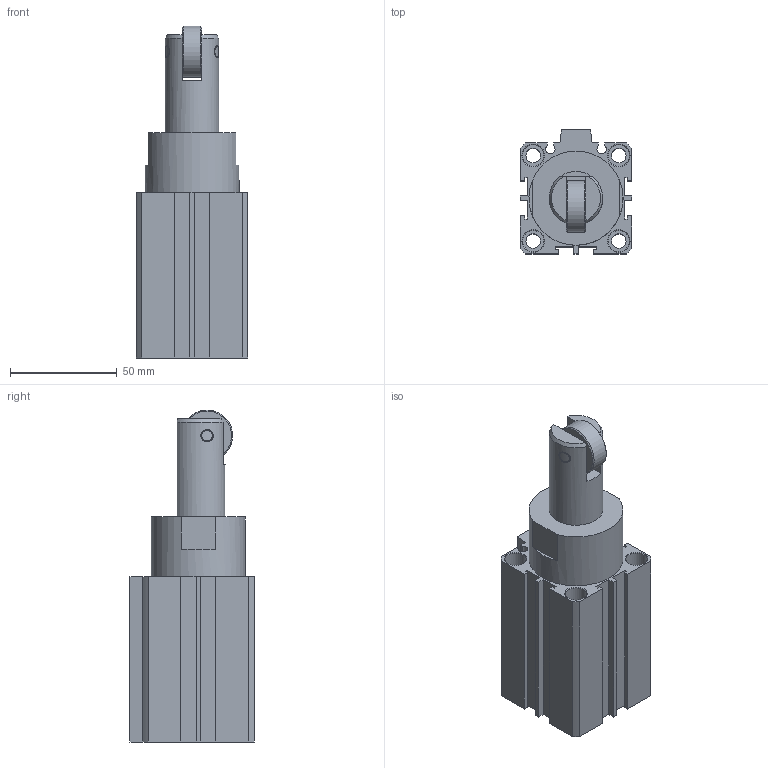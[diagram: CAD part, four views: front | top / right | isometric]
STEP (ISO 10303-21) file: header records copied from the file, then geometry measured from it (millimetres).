
FILE_DESCRIPTION((''),'2;1');
FILE_NAME('I:\3D電子目錄\氣缸\STC\STC\STC40\STC40x25.stp','2007-09-19T15:42:53',('Administrator'),(''),'Autodesk Inventor 11','Autodesk Inventor 11','');
FILE_SCHEMA(('AUTOMOTIVE_DESIGN { 1 0 10303 214 1 1 1 1 }'));
Length unit declared in the file: millimetre
Products named in the file (1): STC40
Bounding box: 52 x 58 x 155.2 mm (x, y, z)
Volume: 243395.1 mm3; surface area: 47061.3 mm2
Topology: 3 solids, 3 shells, 144 faces, 340 edges, 223 vertices
Faces by surface type: plane 84, cylinder 36, cone 18, bspline 5, torus 1
Full cylindrical faces by diameter (mm): 2.2 x2, 5 x2, 5.2 x2, 6.8 x4, 10 x8, 24 x1, 29 x1, 42 x2, 44 x2, 44.5 x2
Entity records: 4517 total; most frequent: CARTESIAN_POINT 1342, DIRECTION 646, ORIENTED_EDGE 570, EDGE_CURVE 285, AXIS2_PLACEMENT_3D 233, EDGE_LOOP 224, VERTEX_POINT 213, VECTOR 180
